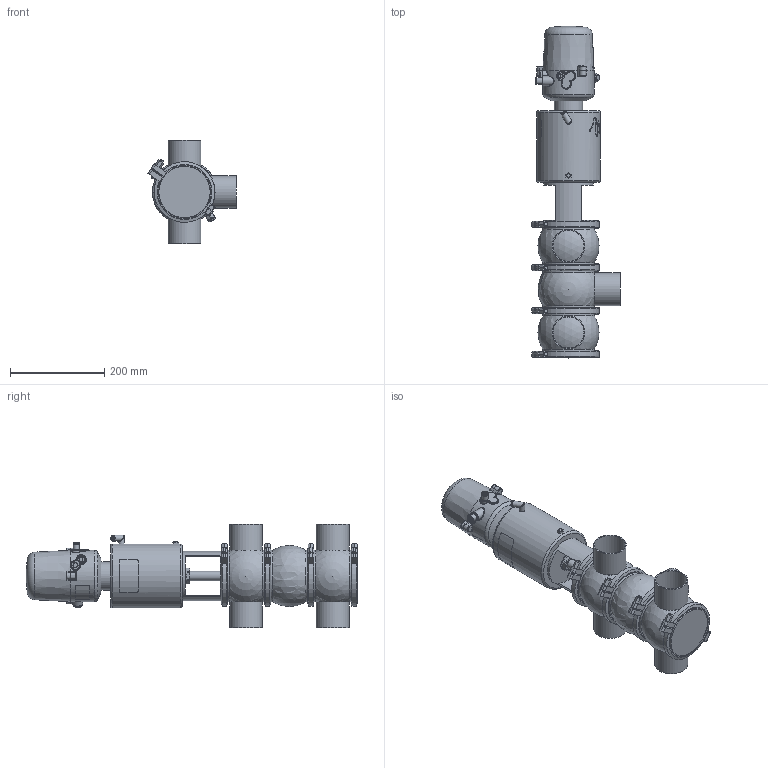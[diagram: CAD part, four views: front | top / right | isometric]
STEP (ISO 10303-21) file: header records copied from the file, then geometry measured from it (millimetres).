
FILE_DESCRIPTION (( 'STEP AP214' ), '1' );
FILE_NAME ('INNOVA L W W DIN 065 T3 AS NC & C-TOP S_10.241.16.0064.STEP', '2024-08-06T12:20:57', ( '' ), ( '' ), 'SwSTEP 2.0', 'SolidWorks 2023', '' );
FILE_SCHEMA (( 'AUTOMOTIVE_DESIGN' ));
Length unit declared in the file: millimetre
Products named in the file (9): 10.240.15.0010_DN 065; INNOVA L W W DIN 065 T3 AS NC & C-TOP S_10.241.16.0064; 10.240.15.0006_DIN 065; 10.240.15.0017_Estàndard; 10.240.15.0001_DN 065; 10.240.15.0007_DIN 065; 10.426.15.0001_C-TOP S - 1 EV; 10.240.15.0014_T3 AS P180; 10.241.15.0001_DIN 065
Assembly tree (12 placements, depth 2):
  INNOVA L W W DIN 065 T3 AS NC & C-TOP S_10.241.16.0064
    10.240.15.0007_DIN 065  x2
    10.240.15.0006_DIN 065
    10.240.15.0010_DN 065
    10.240.15.0014_T3 AS P180
    10.240.15.0017_Estàndard
    10.426.15.0001_C-TOP S - 1 EV
    10.240.15.0001_DN 065  x4
    10.241.15.0001_DIN 065
Bounding box: 188.15 x 705.5 x 220 mm (x, y, z)
Volume: 7378928.6 mm3; surface area: 669067.2 mm2
Topology: 13 solids, 13 shells, 1320 faces, 3204 edges, 2127 vertices
Faces by surface type: plane 484, cylinder 407, cone 221, bspline 160, torus 36, sphere 12
Full cylindrical faces by diameter (mm): 0.371 x17, 0.512 x16, 0.658 x16, 0.795 x16, 0.94 x15, 1.098 x15, 1.241 x13, 1.382 x13, 1.523 x11, 1.669 x10, 2.201 x1, 4 x2, 5.5 x2, 6 x2, 6.15 x1, 8 x10, 8.5 x1, 10 x1, 10.5 x1, 11 x2, 12.5 x3, 13 x2, 13.5 x2, 16 x1, 17 x3, 20 x3, 20.5 x1, 22 x2, 31 x1, 34.5 x3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
Entity records: 58181 total; most frequent: CARTESIAN_POINT 27784, ORIENTED_EDGE 4522, DIRECTION 3689, EDGE_CURVE 2261, VERTEX_POINT 1612, EDGE_LOOP 1585, AXIS2_PLACEMENT_3D 1516, FACE_OUTER_BOUND 1342
